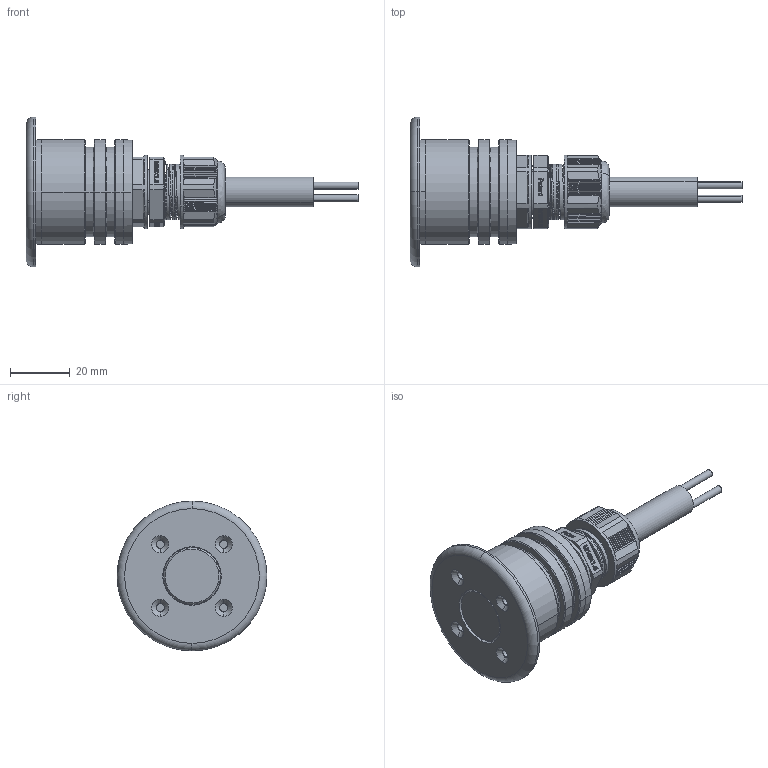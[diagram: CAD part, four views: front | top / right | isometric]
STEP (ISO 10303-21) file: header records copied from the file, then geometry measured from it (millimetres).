
FILE_DESCRIPTION (( 'STEP AP203' ), '1' );
FILE_NAME ('GROUND MINI RD.STEP', '2023-04-03T09:43:29', ( '' ), ( '' ), 'SwSTEP 2.0', 'SolidWorks 2017', '' );
FILE_SCHEMA (( 'CONFIG_CONTROL_DESIGN' ));
Length unit declared in the file: millimetre
Products named in the file (1): GROUND MINI RD
Bounding box: 110.83 x 50 x 50 mm (x, y, z)
Surface area: 25473.9 mm2 (no closed solid volume)
Topology: 0 solids, 13 shells, 768 faces, 1983 edges, 1301 vertices
Faces by surface type: plane 384, bspline 162, cylinder 137, cone 75, torus 10
Full cylindrical faces by diameter (mm): 16.6 x2
Entity records: 31976 total; most frequent: CARTESIAN_POINT 14732, ORIENTED_EDGE 3917, DIRECTION 2875, EDGE_CURVE 1966, VERTEX_POINT 1298, AXIS2_PLACEMENT_3D 969, LINE 937, VECTOR 937
